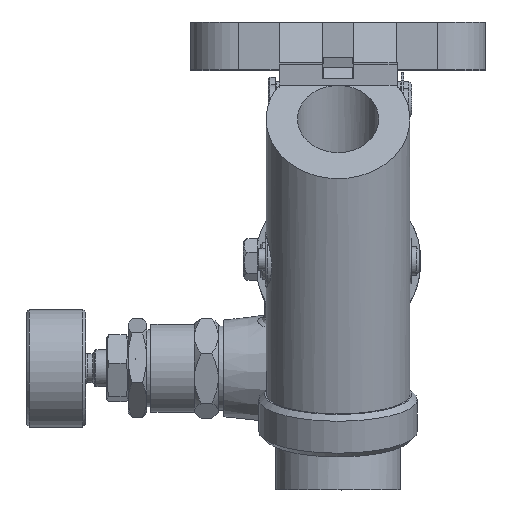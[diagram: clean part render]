
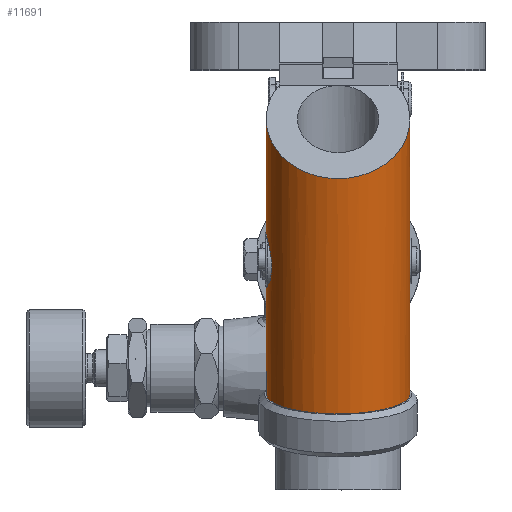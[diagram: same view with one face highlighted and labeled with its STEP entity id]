
A CAD part, top view. The second image highlights one B-rep face of the part: STEP entity #11691.
In plain terms, the highlighted cylindrical face has radius 19.5 mm (diameter 39 mm), a partial arc.
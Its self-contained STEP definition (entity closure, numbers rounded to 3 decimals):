
#63=ELLIPSE('',#12333,20.751,19.5);
#64=ELLIPSE('',#12338,20.751,19.5);
#65=ELLIPSE('',#12341,20.751,19.5);
#66=ELLIPSE('',#12344,22.517,19.5);
#67=ELLIPSE('',#12347,20.751,19.5);
#138=LINE('',#16341,#622);
#139=LINE('',#16342,#623);
#143=LINE('',#16352,#627);
#144=LINE('',#16354,#628);
#146=LINE('',#16360,#630);
#147=LINE('',#16364,#631);
#150=LINE('',#16372,#634);
#622=VECTOR('',#13608,1000.);
#623=VECTOR('',#13609,1000.);
#627=VECTOR('',#13619,1000.);
#628=VECTOR('',#13620,1000.);
#630=VECTOR('',#13628,1000.);
#631=VECTOR('',#13635,1000.);
#634=VECTOR('',#13644,1000.);
#1050=B_SPLINE_CURVE_WITH_KNOTS('',3,(#16374,#16375,#16376,#16377,#16378,
#16379),.UNSPECIFIED.,.F.,.F.,(4,1,1,4),(0.039,0.043,
0.045,0.047),.UNSPECIFIED.);
#1051=B_SPLINE_CURVE_WITH_KNOTS('',3,(#16381,#16382,#16383,#16384,#16385),
 .UNSPECIFIED.,.F.,.F.,(4,1,4),(0.,0.004,0.009),
 .UNSPECIFIED.);
#1052=B_SPLINE_CURVE_WITH_KNOTS('',3,(#16389,#16390,#16391,#16392,#16393),
 .UNSPECIFIED.,.F.,.F.,(4,1,4),(0.032,0.036,0.039),
 .UNSPECIFIED.);
#1053=B_SPLINE_CURVE_WITH_KNOTS('',3,(#16395,#16396,#16397,#16398,#16399,
#16400,#16401),.UNSPECIFIED.,.F.,.F.,(4,1,1,1,4),(0.015,0.019,
0.024,0.028,0.032),.UNSPECIFIED.);
#1054=B_SPLINE_CURVE_WITH_KNOTS('',3,(#16403,#16404,#16405,#16406,#16407),
 .UNSPECIFIED.,.F.,.F.,(4,1,4),(0.009,0.012,
0.015),.UNSPECIFIED.);
#1772=ORIENTED_EDGE('',*,*,#3986,.F.);
#1773=ORIENTED_EDGE('',*,*,#3985,.T.);
#1774=ORIENTED_EDGE('',*,*,#3982,.T.);
#1775=ORIENTED_EDGE('',*,*,#3981,.T.);
#1776=ORIENTED_EDGE('',*,*,#3980,.F.);
#1777=ORIENTED_EDGE('',*,*,#3978,.T.);
#1778=ORIENTED_EDGE('',*,*,#3977,.F.);
#1779=ORIENTED_EDGE('',*,*,#3987,.F.);
#1780=ORIENTED_EDGE('',*,*,#3990,.F.);
#1781=ORIENTED_EDGE('',*,*,#3991,.F.);
#1782=ORIENTED_EDGE('',*,*,#3992,.F.);
#1783=ORIENTED_EDGE('',*,*,#3988,.F.);
#1784=ORIENTED_EDGE('',*,*,#3976,.F.);
#1785=ORIENTED_EDGE('',*,*,#3974,.F.);
#1786=ORIENTED_EDGE('',*,*,#3971,.T.);
#1787=ORIENTED_EDGE('',*,*,#3968,.T.);
#1788=ORIENTED_EDGE('',*,*,#3970,.T.);
#1789=ORIENTED_EDGE('',*,*,#3966,.F.);
#3966=EDGE_CURVE('',#5105,#5106,#63,.T.);
#3968=EDGE_CURVE('',#5107,#5108,#5903,.T.);
#3970=EDGE_CURVE('',#5108,#5106,#138,.F.);
#3971=EDGE_CURVE('',#5109,#5107,#139,.T.);
#3974=EDGE_CURVE('',#5109,#5110,#64,.T.);
#3976=EDGE_CURVE('',#5110,#5112,#143,.F.);
#3977=EDGE_CURVE('',#5112,#5111,#144,.F.);
#3978=EDGE_CURVE('',#5113,#5111,#65,.T.);
#3980=EDGE_CURVE('',#5113,#5086,#146,.F.);
#3981=EDGE_CURVE('',#5087,#5086,#66,.T.);
#3982=EDGE_CURVE('',#5114,#5087,#147,.F.);
#3985=EDGE_CURVE('',#5115,#5114,#67,.T.);
#3986=EDGE_CURVE('',#5115,#5105,#150,.T.);
#3987=EDGE_CURVE('',#5116,#5112,#1050,.T.);
#3988=EDGE_CURVE('',#5112,#5117,#1051,.T.);
#3990=EDGE_CURVE('',#5118,#5116,#1052,.T.);
#3991=EDGE_CURVE('',#5119,#5118,#1053,.T.);
#3992=EDGE_CURVE('',#5117,#5119,#1054,.T.);
#5086=VERTEX_POINT('',#16272);
#5087=VERTEX_POINT('',#16274);
#5105=VERTEX_POINT('',#16331);
#5106=VERTEX_POINT('',#16333);
#5107=VERTEX_POINT('',#16337);
#5108=VERTEX_POINT('',#16338);
#5109=VERTEX_POINT('',#16343);
#5110=VERTEX_POINT('',#16347);
#5111=VERTEX_POINT('',#16351);
#5112=VERTEX_POINT('',#16353);
#5113=VERTEX_POINT('',#16357);
#5114=VERTEX_POINT('',#16365);
#5115=VERTEX_POINT('',#16369);
#5116=VERTEX_POINT('',#16380);
#5117=VERTEX_POINT('',#16386);
#5118=VERTEX_POINT('',#16394);
#5119=VERTEX_POINT('',#16402);
#5903=CIRCLE('',#12335,19.5);
#6467=EDGE_LOOP('',(#1772,#1773,#1774,#1775,#1776,#1777,#1778,#1779,#1780,
#1781,#1782,#1783,#1784,#1785,#1786,#1787,#1788,#1789));
#7367=FACE_BOUND('',#6467,.T.);
#8208=CYLINDRICAL_SURFACE('',#12351,19.5);
#11691=ADVANCED_FACE('',(#7367),#8208,.T.);
#12333=AXIS2_PLACEMENT_3D('',#16332,#13598,#13599);
#12335=AXIS2_PLACEMENT_3D('',#16336,#13603,#13604);
#12338=AXIS2_PLACEMENT_3D('',#16348,#13614,#13615);
#12341=AXIS2_PLACEMENT_3D('',#16356,#13623,#13624);
#12344=AXIS2_PLACEMENT_3D('',#16362,#13631,#13632);
#12347=AXIS2_PLACEMENT_3D('',#16370,#13640,#13641);
#12351=AXIS2_PLACEMENT_3D('',#16388,#13649,#13650);
#13598=DIRECTION('',(0.,0.81,0.587));
#13599=DIRECTION('',(0.,-0.587,0.81));
#13603=DIRECTION('',(0.,0.962,0.274));
#13604=DIRECTION('',(0.,-0.274,0.962));
#13608=DIRECTION('',(0.,-0.962,-0.274));
#13609=DIRECTION('',(0.,-0.962,-0.274));
#13614=DIRECTION('',(0.,0.81,0.587));
#13615=DIRECTION('',(0.,-0.587,0.81));
#13619=DIRECTION('',(0.,-0.962,-0.274));
#13620=DIRECTION('',(0.,-0.962,-0.274));
#13623=DIRECTION('',(0.,0.997,-0.071));
#13624=DIRECTION('',(0.,-0.071,-0.997));
#13628=DIRECTION('',(0.,-0.962,-0.274));
#13631=DIRECTION('',(0.,-0.696,-0.718));
#13632=DIRECTION('',(0.,-0.718,0.696));
#13635=DIRECTION('',(0.,-0.962,-0.274));
#13640=DIRECTION('',(0.,0.997,-0.071));
#13641=DIRECTION('',(0.,-0.071,-0.997));
#13644=DIRECTION('',(0.,-0.962,-0.274));
#13649=DIRECTION('',(0.,-0.962,-0.274));
#13650=DIRECTION('',(0.,0.274,-0.962));
#16272=CARTESIAN_POINT('',(-16.,47.651,233.039));
#16274=CARTESIAN_POINT('',(16.,47.651,233.039));
#16331=CARTESIAN_POINT('',(18.,-33.045,213.813));
#16332=CARTESIAN_POINT('',(0.,-37.727,220.276));
#16333=CARTESIAN_POINT('',(7.5,-26.489,204.764));
#16336=CARTESIAN_POINT('',(0.,-36.185,220.716));
#16337=CARTESIAN_POINT('',(-7.5,-31.247,203.407));
#16338=CARTESIAN_POINT('',(7.5,-31.247,203.407));
#16341=CARTESIAN_POINT('',(7.5,49.531,226.449));
#16342=CARTESIAN_POINT('',(-7.5,49.531,226.449));
#16343=CARTESIAN_POINT('',(-7.5,-26.489,204.764));
#16347=CARTESIAN_POINT('',(-18.,-33.045,213.813));
#16348=CARTESIAN_POINT('',(0.,-37.727,220.276));
#16351=CARTESIAN_POINT('',(-18.,16.244,227.872));
#16352=CARTESIAN_POINT('',(-18.,46.65,236.546));
#16353=CARTESIAN_POINT('',(-18.,2.415,223.928));
#16354=CARTESIAN_POINT('',(-18.,46.65,236.546));
#16356=CARTESIAN_POINT('',(0.,16.812,235.834));
#16357=CARTESIAN_POINT('',(-16.,15.968,224.001));
#16360=CARTESIAN_POINT('',(-16.,47.651,233.039));
#16362=CARTESIAN_POINT('',(0.,38.404,241.993));
#16364=CARTESIAN_POINT('',(16.,47.651,233.039));
#16365=CARTESIAN_POINT('',(16.,15.968,224.001));
#16369=CARTESIAN_POINT('',(18.,16.244,227.872));
#16370=CARTESIAN_POINT('',(0.,16.812,235.834));
#16372=CARTESIAN_POINT('',(18.,46.65,236.546));
#16374=CARTESIAN_POINT('',(-19.25,7.773,230.019));
#16375=CARTESIAN_POINT('',(-19.04,7.56,228.606));
#16376=CARTESIAN_POINT('',(-18.556,6.629,226.602));
#16377=CARTESIAN_POINT('',(-18.089,4.428,224.719));
#16378=CARTESIAN_POINT('',(-18.,3.117,224.128));
#16379=CARTESIAN_POINT('',(-18.,2.415,223.928));
#16380=CARTESIAN_POINT('',(-19.25,7.773,230.019));
#16381=CARTESIAN_POINT('',(-18.,2.415,223.928));
#16382=CARTESIAN_POINT('',(-18.,1.01,223.527));
#16383=CARTESIAN_POINT('',(-18.39,-1.956,223.573));
#16384=CARTESIAN_POINT('',(-19.041,-4.428,225.193));
#16385=CARTESIAN_POINT('',(-19.25,-5.351,226.275));
#16386=CARTESIAN_POINT('',(-19.25,-5.351,226.275));
#16388=CARTESIAN_POINT('',(0.,44.593,243.758));
#16389=CARTESIAN_POINT('',(-19.25,6.066,236.005));
#16390=CARTESIAN_POINT('',(-19.407,6.76,235.191));
#16391=CARTESIAN_POINT('',(-19.593,7.794,233.265));
#16392=CARTESIAN_POINT('',(-19.406,7.932,231.068));
#16393=CARTESIAN_POINT('',(-19.25,7.773,230.019));
#16394=CARTESIAN_POINT('',(-19.25,6.066,236.005));
#16395=CARTESIAN_POINT('',(-19.25,-7.058,232.261));
#16396=CARTESIAN_POINT('',(-19.039,-6.843,233.682));
#16397=CARTESIAN_POINT('',(-18.392,-5.613,236.332));
#16398=CARTESIAN_POINT('',(-17.804,-1.826,238.768));
#16399=CARTESIAN_POINT('',(-18.392,2.691,238.702));
#16400=CARTESIAN_POINT('',(-19.038,5.132,237.1));
#16401=CARTESIAN_POINT('',(-19.25,6.066,236.005));
#16402=CARTESIAN_POINT('',(-19.25,-7.058,232.261));
#16403=CARTESIAN_POINT('',(-19.25,-5.351,226.275));
#16404=CARTESIAN_POINT('',(-19.405,-6.035,227.079));
#16405=CARTESIAN_POINT('',(-19.594,-7.08,229.013));
#16406=CARTESIAN_POINT('',(-19.407,-7.218,231.205));
#16407=CARTESIAN_POINT('',(-19.25,-7.058,232.261));
